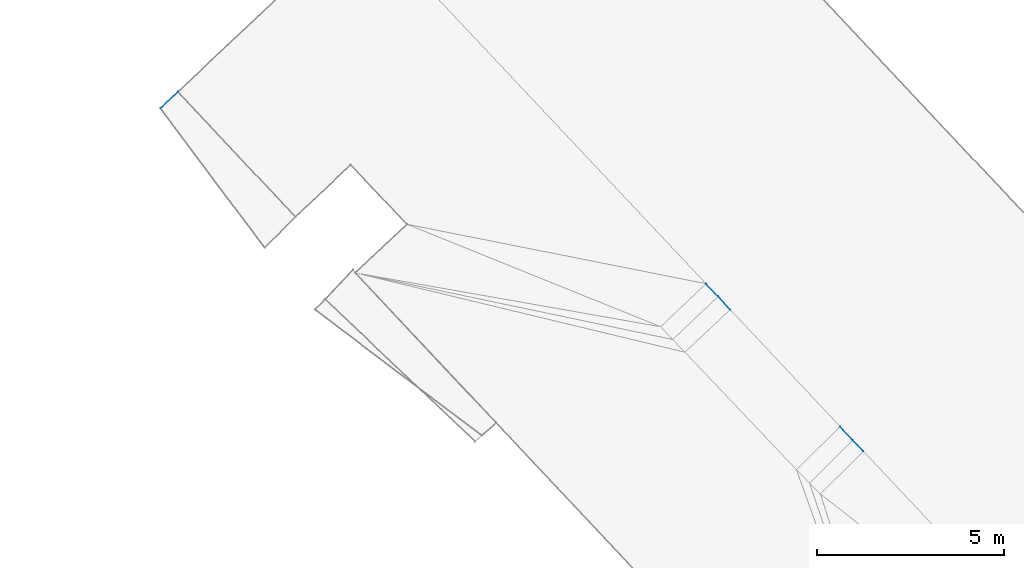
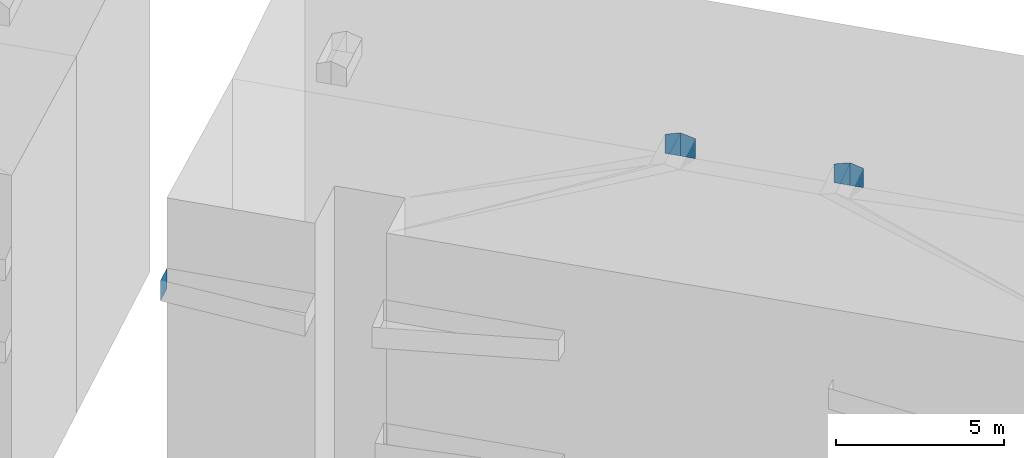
# Not in any storey, part 106 of 136: 6 walls.
"""IFC2X3 building model written with IfcOpenShell, lengths in metres."""

import ifcopenshell
import ifcopenshell.guid

model = None  # the IFC model being written
_history = None  # IfcOwnerHistory: only IFC2X3 demands one
_inside = {}  # id of a spatial element -> (the spatial element, [elements in it])
_under = {}  # id of a project, library or spatial element -> (it, [spatial elements below it])
_declared = {}  # id of a project -> (the project, [libraries it declares])
_typed = {}  # id of a type object -> (the type object, [elements of that type])
_made_of = {}  # id of a material, layer set ... -> (it, [elements and type objects made of it])


def new_model(schema):
    """Start an empty IFC model of exactly this schema.

    Asked for "IFC4X3", IfcOpenShell would pick the latest addendum, in which some entities
    have other attributes; the version numbers below select the first issue.
    IFC2X3 requires an IfcOwnerHistory on every rooted entity: one is made here for all.
    """
    global model, _history
    if schema == "IFC4X3":
        model = ifcopenshell.file(schema_version=(4, 3, 0, 0))
    else:
        model = ifcopenshell.file(schema=schema)
    _inside.clear()
    _under.clear()
    _declared.clear()
    _typed.clear()
    _made_of.clear()
    _history = None
    if model.schema == "IFC2X3":
        org = make("IfcOrganization", Name="unknown")
        user = make(
            "IfcPersonAndOrganization",
            ThePerson=make("IfcPerson", FamilyName="unknown"),
            TheOrganization=org,
        )
        app = make(
            "IfcApplication",
            ApplicationDeveloper=org,
            Version="unknown",
            ApplicationFullName="unknown",
            ApplicationIdentifier="unknown",
        )
        _history = make(
            "IfcOwnerHistory",
            OwningUser=user,
            OwningApplication=app,
            ChangeAction="ADDED",
            CreationDate=0,
        )
    return model


def make(cls, **values):
    """One entity of the class cls with the attributes given. An attribute that is None is left unset."""
    return model.create_entity(
        cls, **{name: value for name, value in values.items() if value is not None}
    )


def entity(cls, *values):
    """Any entity or typed value of the class cls, its attributes in the order of the schema. None: left unset."""
    e = model.create_entity(cls)
    for i, value in enumerate(values):
        if value is not None:
            e[i] = value
    return e


def rooted(cls, **values):
    """An entity with a GlobalId (a new one), such as an element, a storey or a relation."""
    return make(cls, GlobalId=ifcopenshell.guid.new(), OwnerHistory=_history, **values)


def si_unit(unit_type, name, prefix=None):
    """IfcSIUnit, for example si_unit("LENGTHUNIT", "METRE", prefix="MILLI")."""
    return make("IfcSIUnit", UnitType=unit_type, Prefix=prefix, Name=name)


def converted_unit(unit_type, name, factor, base, dimensions=None, offset=None):
    """IfcConversionBasedUnit, such as the inch: factor (a typed value) times the base unit."""
    return make(
        "IfcConversionBasedUnit"
        if offset is None
        else "IfcConversionBasedUnitWithOffset",
        ConversionOffset=offset,
        Dimensions=None
        if dimensions is None
        else entity("IfcDimensionalExponents", *dimensions),
        UnitType=unit_type,
        Name=name,
        ConversionFactor=make(
            "IfcMeasureWithUnit", ValueComponent=factor, UnitComponent=base
        ),
    )


def assignment(units):
    """IfcUnitAssignment: the units of a project."""
    return None if units is None else make("IfcUnitAssignment", Units=units)


def point(xyz):
    """IfcCartesianPoint."""
    return None if xyz is None else make("IfcCartesianPoint", Coordinates=xyz)


def direction(xyz):
    """IfcDirection."""
    return None if xyz is None else make("IfcDirection", DirectionRatios=xyz)


def frame(location, z_axis=None, x_axis=None):
    """IfcAxis2Placement3D, a coordinate frame: its origin and axes. An axis left out is left unset."""
    return make(
        "IfcAxis2Placement3D",
        Location=point(location),
        Axis=direction(z_axis),
        RefDirection=direction(x_axis),
    )


def origin():
    """The frame at (0, 0, 0) with its axes left unset."""
    return frame((0.0, 0.0, 0.0))


def place(relative_to, where):
    """IfcLocalPlacement: puts the frame where relative to a parent placement (None: the world)."""
    return make(
        "IfcLocalPlacement", PlacementRelTo=relative_to, RelativePlacement=where
    )


def context(
    kind, dimensions, precision=None, world=None, true_north=None, identifier=None
):
    """IfcGeometricRepresentationContext, for example the 3D "Model" context."""
    return make(
        "IfcGeometricRepresentationContext",
        ContextIdentifier=identifier,
        ContextType=kind,
        CoordinateSpaceDimension=dimensions,
        Precision=precision,
        WorldCoordinateSystem=world,
        TrueNorth=true_north,
    )


def subcontext(parent, identifier, kind, view, scale=None):
    """IfcGeometricRepresentationSubContext, for example "Body" below "Model"."""
    return make(
        "IfcGeometricRepresentationSubContext",
        ContextIdentifier=identifier,
        ContextType=kind,
        ParentContext=parent,
        TargetScale=scale,
        TargetView=view,
    )


def project(units=None, contexts=None):
    """IfcProject with its units and contexts."""
    return rooted(
        "IfcProject",
        Name="project",
        RepresentationContexts=contexts,
        UnitsInContext=assignment(units),
    )


def spatial(cls, under=None, at=None, **own):
    """A site, building, storey or space (cls), placed at a placement, below another one or the project."""
    s = rooted(cls, ObjectPlacement=at, **own)
    if under is not None:
        _under.setdefault(under.id(), (under, []))[1].append(s)
    return s


def faces_of(points, faces, orient=None, outer=None):
    """IfcFace entities. A face is a list of loops; a loop is a list of indices into points, from 0.

    orient and outer hold one flag for each loop. By default every Orientation is true, the
    first loop of a face is its IfcFaceOuterBound and the others are IfcFaceBound.
    """
    made = []
    for i, loops in enumerate(faces):
        bounds = []
        for j, loop in enumerate(loops):
            is_outer = j == 0 if outer is None else outer[i][j]
            bounds.append(
                make(
                    "IfcFaceOuterBound" if is_outer else "IfcFaceBound",
                    Bound=make("IfcPolyLoop", Polygon=[points[k] for k in loop]),
                    Orientation=True if orient is None else orient[i][j],
                )
            )
        made.append(make("IfcFace", Bounds=bounds))
    return made


def face_set(faces, orient=None, outer=None):
    """The faces of one IfcConnectedFaceSet. surface_model builds it on its shared points."""
    return ("IfcConnectedFaceSet", faces, orient, outer)


def surface_model(cls, points, shells):
    """IfcFaceBasedSurfaceModel or IfcShellBasedSurfaceModel (cls): surfaces that need not close."""
    shared = [point(p) for p in points]
    made = [make(c, CfsFaces=faces_of(shared, fs, o, b)) for c, fs, o, b in shells]
    if cls == "IfcFaceBasedSurfaceModel":
        return make(cls, FbsmFaces=made)
    return make(cls, SbsmBoundary=made)


def shape(context_of_items, identifier, shape_type, items):
    """IfcShapeRepresentation: the items that make up one representation, for example the "Body"."""
    return make(
        "IfcShapeRepresentation",
        ContextOfItems=context_of_items,
        RepresentationIdentifier=identifier,
        RepresentationType=shape_type,
        Items=items,
    )


def made_of(thing, what):
    """Note that an element or type object is made of a material, layer set ...; save() writes the relation."""
    if what is not None:
        _made_of.setdefault(what.id(), (what, []))[1].append(thing)
    return thing


def element(
    cls,
    number,
    at=None,
    inside=None,
    cuts=None,
    type_object=None,
    material=None,
    context=None,
    identifier="Body",
    shape_type=None,
    held_by="IfcProductDefinitionShape",
    body=None,
    shapes=None,
    **own,
):
    """One element of the class cls, such as IfcWall. Its Tag is "e" and its number.

    at: its placement. inside: the storey or other place that contains it. cuts: it is an
    opening in that element (IfcRelVoidsElement). A single representation is given by context,
    identifier, shape_type and body (its items); several are given by shapes. held_by: the class
    of the entity that holds the representations. save() writes the other relations.
    """
    e = rooted(cls, Tag="e%d" % number, ObjectPlacement=at, **own)
    if body is not None:
        shapes = [shape(context, identifier, shape_type, body)]
    if shapes is not None:
        e.Representation = make(held_by, Representations=shapes)
    if inside is not None:
        _inside.setdefault(inside.id(), (inside, []))[1].append(e)
    if cuts is not None:
        rooted(
            "IfcRelVoidsElement", RelatingBuildingElement=cuts, RelatedOpeningElement=e
        )
    if type_object is not None:
        _typed.setdefault(type_object.id(), (type_object, []))[1].append(e)
    return made_of(e, material)


def aggregate(whole, parts):
    """IfcRelAggregates: a whole, such as a stair, and the parts it consists of."""
    return rooted("IfcRelAggregates", RelatingObject=whole, RelatedObjects=parts)


def save(model, path):
    """Write the relations noted so far, then the file.

    IfcRelAggregates (storeys below a building ...), IfcRelContainedInSpatialStructure (elements
    in a storey), IfcRelDefinesByType, IfcRelAssociatesMaterial and IfcRelDeclares: one each for
    every whole, place, type object, material and project.
    """
    for whole, parts in _under.values():
        aggregate(whole, parts)
    for where, things in _inside.values():
        rooted(
            "IfcRelContainedInSpatialStructure",
            RelatedElements=things,
            RelatingStructure=where,
        )
    for kind, things in _typed.values():
        rooted("IfcRelDefinesByType", RelatedObjects=things, RelatingType=kind)
    for what, things in _made_of.values():
        rooted("IfcRelAssociatesMaterial", RelatedObjects=things, RelatingMaterial=what)
    for by, libraries in _declared.values():
        rooted("IfcRelDeclares", RelatingContext=by, RelatedDefinitions=libraries)
    model.write(path)


model = new_model("IFC2X3")

# Units and contexts
model_context = context("Model", 3, precision=1e-05, world=origin())
body_context = subcontext(model_context, "Body", "Model", "MODEL_VIEW")
ifc_project = project(units=[converted_unit("PLANEANGLEUNIT", "DEGREE", entity("IfcRatioMeasure", 0.0174532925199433), si_unit("PLANEANGLEUNIT", "RADIAN"), dimensions=[0, 0, 0, 0, 0, 0, 0]), si_unit("AREAUNIT", "SQUARE_METRE"), si_unit("LENGTHUNIT", "METRE")], contexts=[model_context])

# Site, building
site_placement = place(None, origin())
site = spatial("IfcSite", under=ifc_project, at=site_placement, Name="_site", CompositionType="ELEMENT")
building_placement = place(site_placement, origin())
building = spatial("IfcBuilding", under=site, at=building_placement, Name="_building", CompositionType="ELEMENT")

# Walls
wall_1_placement = place(building_placement, origin())
element("IfcWall", 1, at=wall_1_placement, inside=building, Name="Wall", context=body_context, shape_type="SurfaceModel", body=[
    surface_model("IfcFaceBasedSurfaceModel", [(18.92, 106.15, 47.72), (19.39, 106.59, 47.72), (19.39, 106.59, 48.47), (18.92, 106.15, 48.47)], [face_set([[[0, 1, 2, 3]]])]),
])
wall_2_placement = place(building_placement, origin())
element("IfcWall", 2, at=wall_2_placement, inside=building, Name="Wall", context=body_context, shape_type="SurfaceModel", body=[
    surface_model("IfcFaceBasedSurfaceModel", [(33.503, 101.462, 51.49), (33.83, 101.12, 51.64), (33.83, 101.12, 50.8), (33.503, 101.462, 50.8)], [face_set([[[0, 1, 2, 3]]])]),
])
wall_3_placement = place(building_placement, origin())
element("IfcWall", 3, at=wall_3_placement, inside=building, Name="Wall", context=body_context, shape_type="SurfaceModel", body=[
    surface_model("IfcFaceBasedSurfaceModel", [(33.83, 101.12, 51.64), (34.149, 100.77, 51.52), (34.149, 100.77, 50.8), (33.83, 101.12, 50.8)], [face_set([[[0, 1, 2, 3]]])]),
])
wall_4_placement = place(building_placement, origin())
element("IfcWall", 4, at=wall_4_placement, inside=building, Name="Wall", context=body_context, shape_type="SurfaceModel", body=[
    surface_model("IfcFaceBasedSurfaceModel", [(37.43, 97.28, 51.62), (37.711, 96.981, 51.5), (37.711, 96.981, 50.8), (37.43, 97.28, 50.8)], [face_set([[[0, 1, 2, 3]]])]),
])
wall_5_placement = place(building_placement, origin())
element("IfcWall", 5, at=wall_5_placement, inside=building, Name="Wall", context=body_context, shape_type="SurfaceModel", body=[
    surface_model("IfcFaceBasedSurfaceModel", [(37.09, 97.64, 51.48), (37.43, 97.28, 51.62), (37.43, 97.28, 50.8), (37.09, 97.64, 50.8)], [face_set([[[0, 1, 2, 3]]])]),
])
wall_6_placement = place(building_placement, origin())
element("IfcWall", 6, at=wall_6_placement, inside=building, Name="Wall", context=body_context, shape_type="SurfaceModel", body=[
    surface_model("IfcFaceBasedSurfaceModel", [(18.92, 106.15, 47.72), (19.39, 106.59, 47.72), (19.39, 106.59, 48.47), (18.92, 106.15, 48.47)], [face_set([[[0, 1, 2, 3]]])]),
])

save(model, "model.ifc")
